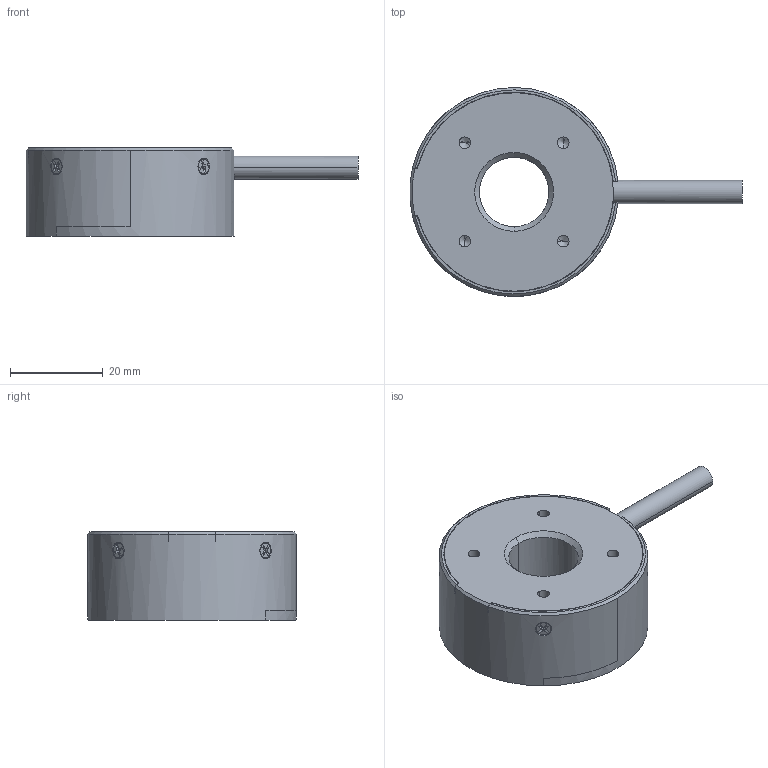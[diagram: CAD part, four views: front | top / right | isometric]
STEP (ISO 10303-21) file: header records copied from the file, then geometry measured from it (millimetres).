
FILE_DESCRIPTION((''),'2;1');
FILE_NAME('PRT0002','2022-09-02T11:45:13',('qiaoxuan5'),(''),'CREO PARAMETRIC BY PTC INC, 2020044','CREO PARAMETRIC BY PTC INC, 2020044','');
FILE_SCHEMA(('CONFIG_CONTROL_DESIGN'));
Length unit declared in the file: metre
Products named in the file (1): PRT0002
Bounding box: 71.57 x 45 x 19 mm (x, y, z)
Volume: 26728.2 mm3; surface area: 9134.5 mm2
Topology: 1 solids, 9 shells, 434 faces, 1080 edges, 662 vertices
Faces by surface type: plane 258, cylinder 114, cone 62
Entity records: 13358 total; most frequent: CARTESIAN_POINT 3084, ORIENTED_EDGE 2128, DIRECTION 2092, EDGE_CURVE 1064, AXIS2_PLACEMENT_3D 698, VECTOR 696, LINE 696, VERTEX_POINT 662
